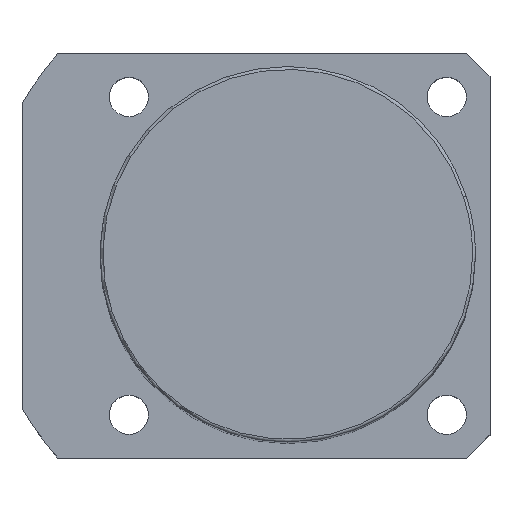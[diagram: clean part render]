
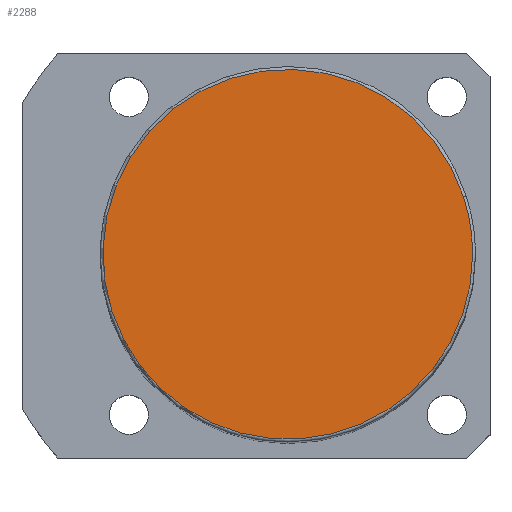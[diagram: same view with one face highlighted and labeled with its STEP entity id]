
A CAD part, top view. The second image highlights one B-rep face of the part: STEP entity #2288.
In plain terms, the highlighted planar face has unit normal (0, 0, 1).
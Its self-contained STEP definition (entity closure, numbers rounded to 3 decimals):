
#2221=CARTESIAN_POINT('',(30.434,9.889,171.0));
#2222=VERTEX_POINT('',#2221);
#2240=CARTESIAN_POINT('',(-30.434,-9.889,171.0));
#2241=VERTEX_POINT('',#2240);
#2249=CARTESIAN_POINT('',(0.0,0.0,171.0));
#2250=DIRECTION('',(0.0,0.0,1.0));
#2251=DIRECTION('',(1.0,0.0,0.0));
#2252=AXIS2_PLACEMENT_3D('',#2249,#2250,#2251);
#2253=CIRCLE('',#2252,32.0);
#2254=EDGE_CURVE('no 2137',#2222,#2241,#2253,.T.);
#2264=CARTESIAN_POINT('',(32.0,0.0,171.0));
#2265=VERTEX_POINT('',#2264);
#2266=CARTESIAN_POINT('',(0.0,0.0,171.0));
#2267=DIRECTION('',(0.0,0.0,1.0));
#2268=DIRECTION('',(1.0,0.0,0.0));
#2269=AXIS2_PLACEMENT_3D('',#2266,#2267,#2268);
#2270=CIRCLE('',#2269,32.0);
#2271=EDGE_CURVE('no 2146',#2265,#2222,#2270,.T.);
#2272=ORIENTED_EDGE('',*,*,#2271,.T.);
#2273=ORIENTED_EDGE('',*,*,#2254,.T.);
#2274=CARTESIAN_POINT('',(0.0,0.0,171.0));
#2275=DIRECTION('',(0.0,0.0,1.0));
#2276=DIRECTION('',(1.0,0.0,0.0));
#2277=AXIS2_PLACEMENT_3D('',#2274,#2275,#2276);
#2278=CIRCLE('',#2277,32.0);
#2279=EDGE_CURVE('no 2152',#2241,#2265,#2278,.T.);
#2280=ORIENTED_EDGE('',*,*,#2279,.T.);
#2281=EDGE_LOOP('',(#2272,#2273,#2280));
#2282=FACE_OUTER_BOUND('',#2281,.T.);
#2283=CARTESIAN_POINT('',(0.0,0.0,171.0));
#2284=DIRECTION('',(0.0,0.0,1.0));
#2285=DIRECTION('',(1.0,0.0,0.0));
#2286=AXIS2_PLACEMENT_3D('',#2283,#2284,#2285);
#2287=PLANE('',#2286);
#2288=ADVANCED_FACE('no 2139',(#2282),#2287,.T.);
